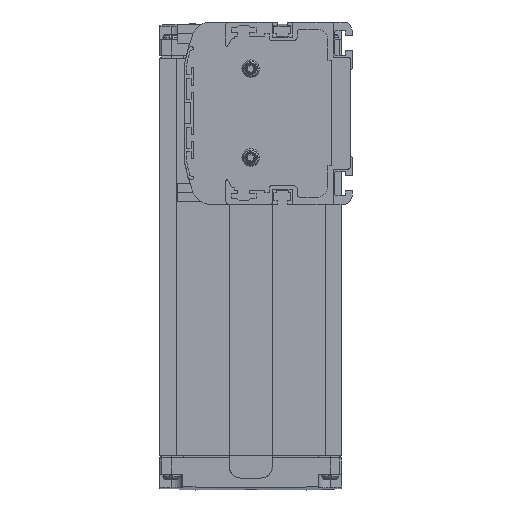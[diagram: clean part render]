
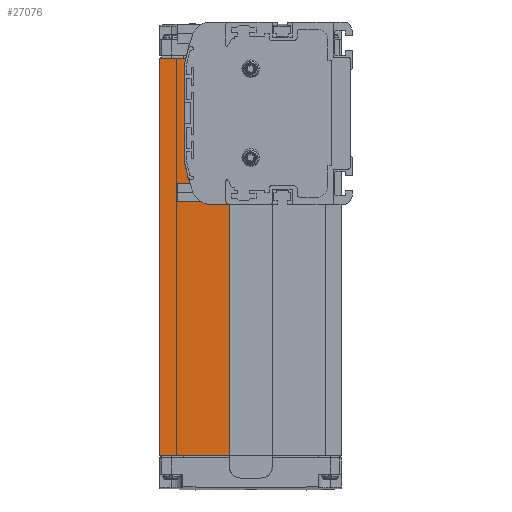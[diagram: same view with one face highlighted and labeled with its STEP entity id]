
A CAD part, left-side view. The second image highlights one B-rep face of the part: STEP entity #27076.
In plain terms, the highlighted planar face has unit normal (-1, 0, 0).
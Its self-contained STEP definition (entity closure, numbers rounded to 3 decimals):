
#3926=DIRECTION('',(0.,-1.,0.));
#3927=VECTOR('',#3926,8.155);
#3928=CARTESIAN_POINT('',(3.,60.755,-39.));
#3929=LINE('',#3928,#3927);
#3964=DIRECTION('',(0.,-1.,0.));
#3965=VECTOR('',#3964,29.9);
#3966=CARTESIAN_POINT('',(3.,82.5,-146.5));
#3967=LINE('',#3966,#3965);
#3968=DIRECTION('',(0.,1.,0.));
#3969=VECTOR('',#3968,11.203);
#3970=CARTESIAN_POINT('',(3.,71.297,23.5));
#3971=LINE('',#3970,#3969);
#3988=DIRECTION('',(0.,0.,1.));
#3989=VECTOR('',#3988,107.5);
#3990=CARTESIAN_POINT('',(3.,52.6,-146.5));
#3991=LINE('',#3990,#3989);
#3992=DIRECTION('',(0.,1.,0.));
#3993=VECTOR('',#3992,0.209);
#3994=CARTESIAN_POINT('',(3.,70.291,-27.5));
#3995=LINE('',#3994,#3993);
#4016=DIRECTION('',(0.,0.,1.));
#4017=VECTOR('',#4016,0.762);
#4018=CARTESIAN_POINT('',(3.,70.5,-27.5));
#4019=LINE('',#4018,#4017);
#9776=CARTESIAN_POINT('',(3.,-6.765,6.));
#9777=DIRECTION('',(1.,0.,0.));
#9778=DIRECTION('',(0.,0.984,0.177));
#9779=AXIS2_PLACEMENT_3D('',#9776,#9777,#9778);
#9781=CARTESIAN_POINT('',(3.,70.,19.823));
#9782=DIRECTION('',(1.,0.,0.));
#9783=DIRECTION('',(0.,1.,0.));
#9784=AXIS2_PLACEMENT_3D('',#9781,#9782,#9783);
#9790=DIRECTION('',(0.,0.,1.));
#9791=VECTOR('',#9790,39.645);
#9792=CARTESIAN_POINT('',(3.,72.,-19.823));
#9793=LINE('',#9792,#9791);
#9798=CARTESIAN_POINT('',(3.,70.,-19.823));
#9799=DIRECTION('',(-1.,0.,0.));
#9800=DIRECTION('',(0.,1.,0.));
#9801=AXIS2_PLACEMENT_3D('',#9798,#9799,#9800);
#9811=CARTESIAN_POINT('',(3.,-6.765,-6.));
#9812=DIRECTION('',(1.,0.,0.));
#9813=DIRECTION('',(0.,0.938,-0.347));
#9814=AXIS2_PLACEMENT_3D('',#9811,#9812,#9813);
#9816=CARTESIAN_POINT('',(3.,-6.765,-6.));
#9817=DIRECTION('',(1.,0.,0.));
#9818=DIRECTION('',(0.,0.966,-0.259));
#9819=AXIS2_PLACEMENT_3D('',#9816,#9817,#9818);
#9825=CARTESIAN_POINT('',(3.,60.755,-31.));
#9826=DIRECTION('',(1.,0.,0.));
#9827=DIRECTION('',(0.,0.,-1.));
#9828=AXIS2_PLACEMENT_3D('',#9825,#9826,#9827);
#12315=DIRECTION('',(0.,0.,1.));
#12316=VECTOR('',#12315,170.);
#12317=CARTESIAN_POINT('',(3.,82.5,-146.5));
#12318=LINE('',#12317,#12316);
#17506=CARTESIAN_POINT('',(3.,82.5,23.5));
#17507=VERTEX_POINT('',#17506);
#17552=CARTESIAN_POINT('',(3.,82.5,-146.5));
#17553=VERTEX_POINT('',#17552);
#17554=CARTESIAN_POINT('',(3.,52.6,-146.5));
#17555=VERTEX_POINT('',#17554);
#17584=CARTESIAN_POINT('',(3.,70.5,-27.5));
#17586=VERTEX_POINT('',#17584);
#21547=CARTESIAN_POINT('',(3.,60.755,-39.));
#21548=CARTESIAN_POINT('',(3.,52.6,-39.));
#21549=VERTEX_POINT('',#21547);
#21550=VERTEX_POINT('',#21548);
#21551=CARTESIAN_POINT('',(3.,71.297,23.5));
#21553=VERTEX_POINT('',#21551);
#21561=CARTESIAN_POINT('',(3.,70.5,-26.738));
#21562=VERTEX_POINT('',#21561);
#21565=CARTESIAN_POINT('',(3.,70.291,-27.5));
#21567=VERTEX_POINT('',#21565);
#21577=CARTESIAN_POINT('',(3.,72.,19.823));
#21578=CARTESIAN_POINT('',(3.,71.968,20.177));
#21579=VERTEX_POINT('',#21577);
#21580=VERTEX_POINT('',#21578);
#21593=CARTESIAN_POINT('',(3.,68.257,-33.778));
#21594=VERTEX_POINT('',#21593);
#21595=CARTESIAN_POINT('',(3.,71.968,-20.177));
#21596=VERTEX_POINT('',#21595);
#21597=CARTESIAN_POINT('',(3.,72.,-19.823));
#21598=VERTEX_POINT('',#21597);
#27042=CARTESIAN_POINT('',(3.,67.55,-61.5));
#27043=DIRECTION('',(1.,0.,0.));
#27044=DIRECTION('',(0.,1.,0.));
#27045=AXIS2_PLACEMENT_3D('',#27042,#27043,#27044);
#27046=PLANE('',#27045);
#27047=ORIENTED_EDGE('',*,*,#27010,.T.);
#27049=ORIENTED_EDGE('',*,*,#27048,.F.);
#27051=ORIENTED_EDGE('',*,*,#27050,.F.);
#27053=ORIENTED_EDGE('',*,*,#27052,.T.);
#27055=ORIENTED_EDGE('',*,*,#27054,.F.);
#27057=ORIENTED_EDGE('',*,*,#27056,.F.);
#27059=ORIENTED_EDGE('',*,*,#27058,.F.);
#27061=ORIENTED_EDGE('',*,*,#27060,.F.);
#27063=ORIENTED_EDGE('',*,*,#27062,.T.);
#27065=ORIENTED_EDGE('',*,*,#27064,.F.);
#27067=ORIENTED_EDGE('',*,*,#27066,.F.);
#27069=ORIENTED_EDGE('',*,*,#27068,.F.);
#27071=ORIENTED_EDGE('',*,*,#27070,.F.);
#27073=ORIENTED_EDGE('',*,*,#27072,.F.);
#27074=EDGE_LOOP('',(#27047,#27049,#27051,#27053,#27055,#27057,#27059,#27061,
#27063,#27065,#27067,#27069,#27071,#27073));
#27075=FACE_OUTER_BOUND('',#27074,.F.);
#27076=ADVANCED_FACE('',(#27075),#27046,.F.);
#9780=CIRCLE('',#9779,80.);
#9785=CIRCLE('',#9784,2.);
#9802=CIRCLE('',#9801,2.);
#9815=CIRCLE('',#9814,80.);
#9820=CIRCLE('',#9819,80.);
#9829=CIRCLE('',#9828,8.);
#27010=EDGE_CURVE('',#21549,#21550,#3929,.T.);
#27048=EDGE_CURVE('',#17555,#21550,#3991,.T.);
#27050=EDGE_CURVE('',#17553,#17555,#3967,.T.);
#27052=EDGE_CURVE('',#17553,#17507,#12318,.T.);
#27054=EDGE_CURVE('',#21553,#17507,#3971,.T.);
#27056=EDGE_CURVE('',#21580,#21553,#9780,.T.);
#27058=EDGE_CURVE('',#21579,#21580,#9785,.T.);
#27060=EDGE_CURVE('',#21598,#21579,#9793,.T.);
#27062=EDGE_CURVE('',#21598,#21596,#9802,.T.);
#27064=EDGE_CURVE('',#21562,#21596,#9820,.T.);
#27066=EDGE_CURVE('',#17586,#21562,#4019,.T.);
#27068=EDGE_CURVE('',#21567,#17586,#3995,.T.);
#27070=EDGE_CURVE('',#21594,#21567,#9815,.T.);
#27072=EDGE_CURVE('',#21549,#21594,#9829,.T.);
